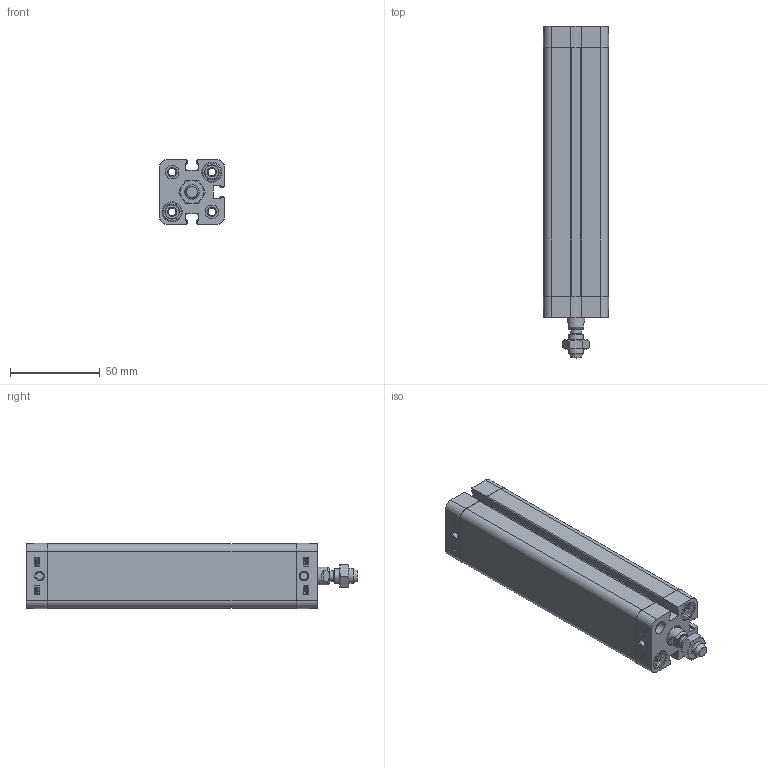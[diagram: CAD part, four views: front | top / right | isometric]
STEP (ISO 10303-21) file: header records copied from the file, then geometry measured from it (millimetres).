
FILE_DESCRIPTION(/* description */ ('Unknown'),/* implementation_level */ '2;1');
FILE_NAME(/* name */ 'ZIF 20_125',/* time_stamp */ '2025-01-27T07:55:20+01:00',/* author */ ('Unknown'),/* organization */ ('HAFNER Pneumatika Kft'),/* preprocessor_version */ 'ST-DEVELOPER v16.7',/* originating_system */ 'Solid Edge',/* authorisation */ 'Unknown');
FILE_SCHEMA (('AUTOMOTIVE_DESIGN {1 0 10303 214 3 1 1}'));
Length unit declared in the file: millimetre
Products named in the file (6): ZIF 20_125; Mutter; Profilrohr; Kolbenstange; Kit_2; Kit_1
Assembly tree (5 placements, depth 2):
  ZIF 20_125
    Mutter
    Profilrohr
    Kolbenstange
    Kit_2
    Kit_1
Bounding box: 36.3 x 184.5 x 36.3 mm (x, y, z)
Volume: 133643.1 mm3; surface area: 67914.3 mm2
Topology: 5 solids, 9 shells, 599 faces, 1597 edges, 1053 vertices
Faces by surface type: plane 291, cylinder 150, bspline 86, cone 58, torus 14
Full cylindrical faces by diameter (mm): 4.134 x10, 5.8 x1, 6.647 x1, 7.5 x4, 7.55 x4, 8 x9, 9 x1, 10 x1, 10.48 x1, 10.9 x4, 11.1 x4, 11.4 x1, 12 x1, 13.84 x1, 14 x1, 20 x2
Entity records: 22025 total; most frequent: CARTESIAN_POINT 4325, ORIENTED_EDGE 2918, DIRECTION 2662, EDGE_CURVE 1459, VERTEX_POINT 1009, AXIS2_PLACEMENT_3D 908, LINE 846, VECTOR 846
